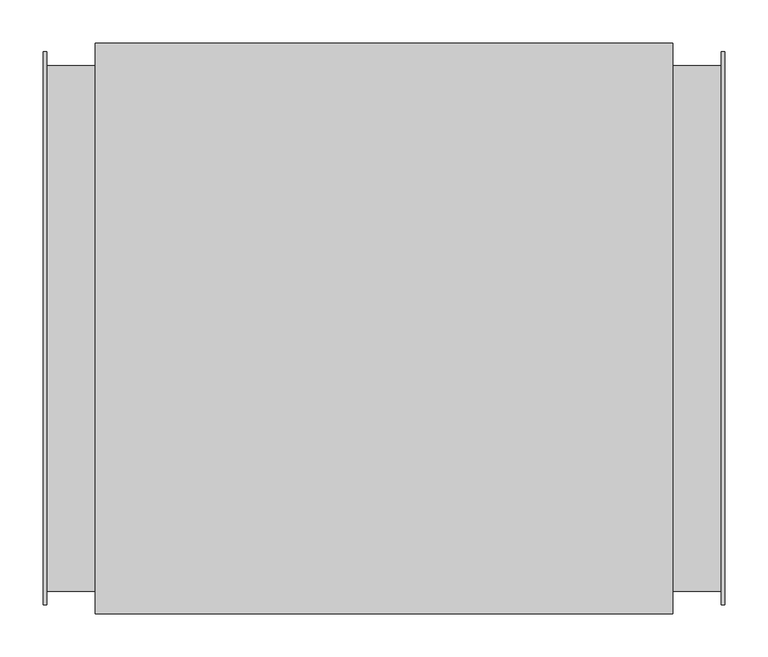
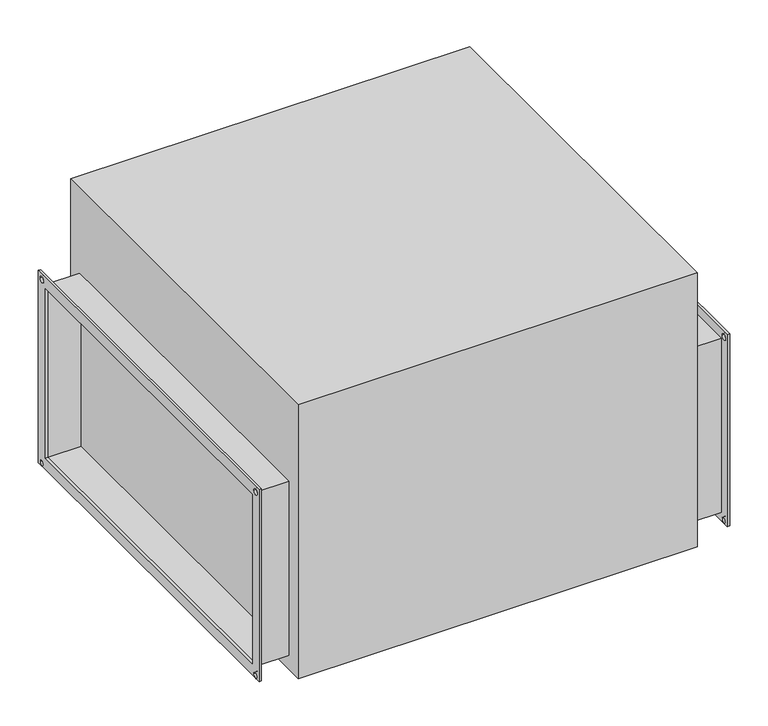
"""IFC4 building model written with IfcOpenShell, lengths in millimetres: proxy geometry."""

import ifcopenshell
import ifcopenshell.guid

model = None  # the IFC model being written
_history = None  # IfcOwnerHistory: only IFC2X3 demands one
_inside = {}  # id of a spatial element -> (the spatial element, [elements in it])
_under = {}  # id of a project, library or spatial element -> (it, [spatial elements below it])
_declared = {}  # id of a project -> (the project, [libraries it declares])
_typed = {}  # id of a type object -> (the type object, [elements of that type])
_made_of = {}  # id of a material, layer set ... -> (it, [elements and type objects made of it])


def new_model(schema):
    """Start an empty IFC model of exactly this schema.

    Asked for "IFC4X3", IfcOpenShell would pick the latest addendum, in which some entities
    have other attributes; the version numbers below select the first issue.
    IFC2X3 requires an IfcOwnerHistory on every rooted entity: one is made here for all.
    """
    global model, _history
    if schema == "IFC4X3":
        model = ifcopenshell.file(schema_version=(4, 3, 0, 0))
    else:
        model = ifcopenshell.file(schema=schema)
    _inside.clear()
    _under.clear()
    _declared.clear()
    _typed.clear()
    _made_of.clear()
    _history = None
    if model.schema == "IFC2X3":
        org = make("IfcOrganization", Name="unknown")
        user = make(
            "IfcPersonAndOrganization",
            ThePerson=make("IfcPerson", FamilyName="unknown"),
            TheOrganization=org,
        )
        app = make(
            "IfcApplication",
            ApplicationDeveloper=org,
            Version="unknown",
            ApplicationFullName="unknown",
            ApplicationIdentifier="unknown",
        )
        _history = make(
            "IfcOwnerHistory",
            OwningUser=user,
            OwningApplication=app,
            ChangeAction="ADDED",
            CreationDate=0,
        )
    return model


def make(cls, **values):
    """One entity of the class cls with the attributes given. An attribute that is None is left unset."""
    return model.create_entity(
        cls, **{name: value for name, value in values.items() if value is not None}
    )


def rooted(cls, **values):
    """An entity with a GlobalId (a new one), such as an element, a storey or a relation."""
    return make(cls, GlobalId=ifcopenshell.guid.new(), OwnerHistory=_history, **values)


def si_unit(unit_type, name, prefix=None):
    """IfcSIUnit, for example si_unit("LENGTHUNIT", "METRE", prefix="MILLI")."""
    return make("IfcSIUnit", UnitType=unit_type, Prefix=prefix, Name=name)


def assignment(units):
    """IfcUnitAssignment: the units of a project."""
    return None if units is None else make("IfcUnitAssignment", Units=units)


def point(xyz):
    """IfcCartesianPoint."""
    return None if xyz is None else make("IfcCartesianPoint", Coordinates=xyz)


def direction(xyz):
    """IfcDirection."""
    return None if xyz is None else make("IfcDirection", DirectionRatios=xyz)


def frame(location, z_axis=None, x_axis=None):
    """IfcAxis2Placement3D, a coordinate frame: its origin and axes. An axis left out is left unset."""
    return make(
        "IfcAxis2Placement3D",
        Location=point(location),
        Axis=direction(z_axis),
        RefDirection=direction(x_axis),
    )


def origin():
    """The frame at (0, 0, 0) with its axes left unset."""
    return frame((0.0, 0.0, 0.0))


def place(relative_to, where):
    """IfcLocalPlacement: puts the frame where relative to a parent placement (None: the world)."""
    return make(
        "IfcLocalPlacement", PlacementRelTo=relative_to, RelativePlacement=where
    )


def context(
    kind, dimensions, precision=None, world=None, true_north=None, identifier=None
):
    """IfcGeometricRepresentationContext, for example the 3D "Model" context."""
    return make(
        "IfcGeometricRepresentationContext",
        ContextIdentifier=identifier,
        ContextType=kind,
        CoordinateSpaceDimension=dimensions,
        Precision=precision,
        WorldCoordinateSystem=world,
        TrueNorth=true_north,
    )


def project(units=None, contexts=None):
    """IfcProject with its units and contexts."""
    return rooted(
        "IfcProject",
        Name="project",
        RepresentationContexts=contexts,
        UnitsInContext=assignment(units),
    )


def spatial(cls, under=None, at=None, **own):
    """A site, building, storey or space (cls), placed at a placement, below another one or the project."""
    s = rooted(cls, ObjectPlacement=at, **own)
    if under is not None:
        _under.setdefault(under.id(), (under, []))[1].append(s)
    return s


def polyline(points):
    """IfcPolyline through the points."""
    return make("IfcPolyline", Points=[point(p) for p in points])


def circle_curve(where, radius):
    """IfcCircle in the frame where."""
    return make("IfcCircle", Position=where, Radius=radius)


def outline(outer, holes=None, kind="AREA"):
    """IfcArbitraryClosedProfileDef: a profile drawn as a closed curve; with holes, ...WithVoids."""
    if holes is None:
        return make("IfcArbitraryClosedProfileDef", ProfileType=kind, OuterCurve=outer)
    return make(
        "IfcArbitraryProfileDefWithVoids",
        ProfileType=kind,
        OuterCurve=outer,
        InnerCurves=holes,
    )


def extrude(swept, where, along, depth):
    """IfcExtrudedAreaSolid: the profile swept, set in the frame where, extruded along a direction by depth."""
    return make(
        "IfcExtrudedAreaSolid",
        SweptArea=swept,
        Position=where,
        ExtrudedDirection=direction(along),
        Depth=depth,
    )


def shape(context_of_items, identifier, shape_type, items):
    """IfcShapeRepresentation: the items that make up one representation, for example the "Body"."""
    return make(
        "IfcShapeRepresentation",
        ContextOfItems=context_of_items,
        RepresentationIdentifier=identifier,
        RepresentationType=shape_type,
        Items=items,
    )


def source(mapping_origin, context_of_items, identifier, shape_type, items):
    """IfcRepresentationMap: a shape defined once, which mapped items show again and again."""
    return make(
        "IfcRepresentationMap",
        MappingOrigin=mapping_origin,
        MappedRepresentation=shape(context_of_items, identifier, shape_type, items),
    )


def transform(
    local_origin,
    x_axis=None,
    y_axis=None,
    z_axis=None,
    scale=None,
    scale2=None,
    scale3=None,
    uniform=True,
):
    """IfcCartesianTransformationOperator3D, or its non-uniform kind. x_axis, y_axis, z_axis: its Axis1, 2, 3."""
    if uniform:
        return make(
            "IfcCartesianTransformationOperator3D",
            Axis1=direction(x_axis),
            Axis2=direction(y_axis),
            LocalOrigin=point(local_origin),
            Scale=scale,
            Axis3=direction(z_axis),
        )
    return make(
        "IfcCartesianTransformationOperator3DnonUniform",
        Axis1=direction(x_axis),
        Axis2=direction(y_axis),
        LocalOrigin=point(local_origin),
        Scale=scale,
        Axis3=direction(z_axis),
        Scale2=scale2,
        Scale3=scale3,
    )


def mapped(mapping_source, mapping_target):
    """IfcMappedItem: shows the shape of a source again, moved by a transform."""
    return make(
        "IfcMappedItem", MappingSource=mapping_source, MappingTarget=mapping_target
    )


def made_of(thing, what):
    """Note that an element or type object is made of a material, layer set ...; save() writes the relation."""
    if what is not None:
        _made_of.setdefault(what.id(), (what, []))[1].append(thing)
    return thing


def element(
    cls,
    number,
    at=None,
    inside=None,
    cuts=None,
    type_object=None,
    material=None,
    context=None,
    identifier="Body",
    shape_type=None,
    held_by="IfcProductDefinitionShape",
    body=None,
    shapes=None,
    **own,
):
    """One element of the class cls, such as IfcWall. Its Tag is "e" and its number.

    at: its placement. inside: the storey or other place that contains it. cuts: it is an
    opening in that element (IfcRelVoidsElement). A single representation is given by context,
    identifier, shape_type and body (its items); several are given by shapes. held_by: the class
    of the entity that holds the representations. save() writes the other relations.
    """
    e = rooted(cls, Tag="e%d" % number, ObjectPlacement=at, **own)
    if body is not None:
        shapes = [shape(context, identifier, shape_type, body)]
    if shapes is not None:
        e.Representation = make(held_by, Representations=shapes)
    if inside is not None:
        _inside.setdefault(inside.id(), (inside, []))[1].append(e)
    if cuts is not None:
        rooted(
            "IfcRelVoidsElement", RelatingBuildingElement=cuts, RelatedOpeningElement=e
        )
    if type_object is not None:
        _typed.setdefault(type_object.id(), (type_object, []))[1].append(e)
    return made_of(e, material)


def aggregate(whole, parts):
    """IfcRelAggregates: a whole, such as a stair, and the parts it consists of."""
    return rooted("IfcRelAggregates", RelatingObject=whole, RelatedObjects=parts)


def save(model, path):
    """Write the relations noted so far, then the file.

    IfcRelAggregates (storeys below a building ...), IfcRelContainedInSpatialStructure (elements
    in a storey), IfcRelDefinesByType, IfcRelAssociatesMaterial and IfcRelDeclares: one each for
    every whole, place, type object, material and project.
    """
    for whole, parts in _under.values():
        aggregate(whole, parts)
    for where, things in _inside.values():
        rooted(
            "IfcRelContainedInSpatialStructure",
            RelatedElements=things,
            RelatingStructure=where,
        )
    for kind, things in _typed.values():
        rooted("IfcRelDefinesByType", RelatedObjects=things, RelatingType=kind)
    for what, things in _made_of.values():
        rooted("IfcRelAssociatesMaterial", RelatedObjects=things, RelatingMaterial=what)
    for by, libraries in _declared.values():
        rooted("IfcRelDeclares", RelatingContext=by, RelatedDefinitions=libraries)
    model.write(path)


def plane_surface(at):
    """IfcPlane: the flat surface through the origin of the frame at, square to its z axis."""
    return make("IfcPlane", Position=at)


def revolved_surface(curve, axis_point, axis_direction):
    """IfcSurfaceOfRevolution: the curve turned about the line through axis_point along axis_direction."""
    return make(
        "IfcSurfaceOfRevolution",
        SweptCurve=make("IfcArbitraryOpenProfileDef", ProfileType="CURVE", Curve=curve),
        AxisPosition=make("IfcAxis1Placement", Location=point(axis_point), Axis=direction(axis_direction)),
    )


def advanced_brep(points, edges, surfaces, faces):
    """IfcAdvancedBrep: a solid bounded by faces that lie on surfaces and meet in shared edges.

    An edge is (start, end): straight between two places in points (the first is 0);
    or (start, end, curve); or (start, end, curve, False) where it runs against its curve.
    A face is (place in surfaces, loops), or (place, loops, False) where it looks against
    its surface's normal. A loop lists edges by number (the first is 1), with a minus sign
    where the edge is run from its end to its start. The first loop is the outer one.
    """
    corners = [point(p) for p in points]
    vertices = [make("IfcVertexPoint", VertexGeometry=c) for c in corners]
    made = []
    for start, end, *more in edges:
        made.append(
            make(
                "IfcEdgeCurve",
                EdgeStart=vertices[start],
                EdgeEnd=vertices[end],
                EdgeGeometry=more[0] if more else make("IfcPolyline", Points=[corners[start], corners[end]]),
                SameSense=more[1] if len(more) > 1 else True,
            )
        )
    hull = []
    for where, loops, *sense in faces:
        bounds = []
        for j, loop in enumerate(loops):
            ring = [make("IfcOrientedEdge", EdgeElement=made[abs(k) - 1], Orientation=k > 0) for k in loop]
            bounds.append(
                make(
                    "IfcFaceOuterBound" if j == 0 else "IfcFaceBound",
                    Bound=make("IfcEdgeLoop", EdgeList=ring),
                    Orientation=True,
                )
            )
        hull.append(make("IfcAdvancedFace", Bounds=bounds, FaceSurface=surfaces[where], SameSense=sense[0] if sense else True))
    return make("IfcAdvancedBrep", Outer=make("IfcClosedShell", CfsFaces=hull))


def mechanical_equipment_2a61b2a6(model_context):
    return source(origin(), model_context, "Body", "SolidModel", [
        advanced_brep(
        [(390.0, 320.0, 170.0), (390.0, 320.0, -170.0), (390.0, 310.0, -170.0), (390.0, 315.0, -165.0), (390.0, 305.0, -165.0), (390.0, -310.0, -170.0), (390.0, -305.0, -165.0), (390.0, -315.0, -165.0), (390.0, -320.0, -170.0), (390.0, -320.0, 170.0), (390.0, 300.0, 150.0), (390.0, -300.0, 150.0), (390.0, -300.0, -150.0), (390.0, 300.0, -150.0), (390.0, 305.0, 160.0), (390.0, 315.0, 160.0), (390.0, -315.0, 160.0), (390.0, -305.0, 160.0), (394.0, 320.0, 170.0), (394.0, -320.0, 170.0), (394.0, -320.0, -170.0), (394.0, -310.0, -170.0), (394.0, -315.0, -165.0), (394.0, -305.0, -165.0), (394.0, 310.0, -170.0), (394.0, 305.0, -165.0), (394.0, 315.0, -165.0), (394.0, 320.0, -170.0), (394.0, 300.0, 150.0), (394.0, 300.0, -150.0), (394.0, -300.0, -150.0), (394.0, -300.0, 150.0), (394.0, 315.0, 160.0), (394.0, 305.0, 160.0), (394.0, -305.0, 160.0), (394.0, -315.0, 160.0)],
        [
            (0, 1),
            (1, 2),
            (2, 3, circle_curve(frame((390.0, 310.0, -165.0), z_axis=(1.0, 0.0, 0.0), x_axis=(0.0, 1.0, 0.0)), 5.0)),
            (3, 4, circle_curve(frame((390.0, 310.0, -165.0), z_axis=(1.0, 0.0, 0.0), x_axis=(0.0, 1.0, 0.0)), 5.0)),
            (4, 2, circle_curve(frame((390.0, 310.0, -165.0), z_axis=(1.0, 0.0, 0.0), x_axis=(0.0, 1.0, 0.0)), 5.0)),
            (2, 5),
            (5, 6, circle_curve(frame((390.0, -310.0, -165.0), z_axis=(1.0, 0.0, 0.0), x_axis=(0.0, 1.0, 0.0)), 5.0)),
            (6, 7, circle_curve(frame((390.0, -310.0, -165.0), z_axis=(1.0, 0.0, 0.0), x_axis=(0.0, 1.0, 0.0)), 5.0)),
            (7, 5, circle_curve(frame((390.0, -310.0, -165.0), z_axis=(1.0, 0.0, 0.0), x_axis=(0.0, 1.0, 0.0)), 5.0)),
            (5, 8),
            (8, 9),
            (9, 0),
            (10, 11),
            (11, 12),
            (12, 13),
            (13, 10),
            (14, 15, circle_curve(frame((390.0, 310.0, 160.0), z_axis=(1.0, 0.0, 0.0), x_axis=(0.0, 1.0, 0.0)), 5.0)),
            (15, 14, circle_curve(frame((390.0, 310.0, 160.0), z_axis=(1.0, 0.0, 0.0), x_axis=(0.0, 1.0, 0.0)), 5.0)),
            (16, 17, circle_curve(frame((390.0, -310.0, 160.0), z_axis=(1.0, 0.0, 0.0), x_axis=(0.0, 1.0, 0.0)), 5.0)),
            (17, 16, circle_curve(frame((390.0, -310.0, 160.0), z_axis=(1.0, 0.0, 0.0), x_axis=(0.0, 1.0, 0.0)), 5.0)),
            (18, 19),
            (19, 20),
            (20, 21),
            (21, 22, circle_curve(frame((394.0, -310.0, -165.0), z_axis=(-1.0, 0.0, 0.0), x_axis=(0.0, 1.0, 0.0)), 5.0)),
            (22, 23, circle_curve(frame((394.0, -310.0, -165.0), z_axis=(-1.0, 0.0, 0.0), x_axis=(0.0, 1.0, 0.0)), 5.0)),
            (23, 21, circle_curve(frame((394.0, -310.0, -165.0), z_axis=(-1.0, 0.0, 0.0), x_axis=(0.0, 1.0, 0.0)), 5.0)),
            (21, 24),
            (24, 25, circle_curve(frame((394.0, 310.0, -165.0), z_axis=(-1.0, 0.0, 0.0), x_axis=(0.0, 1.0, 0.0)), 5.0)),
            (25, 26, circle_curve(frame((394.0, 310.0, -165.0), z_axis=(-1.0, 0.0, 0.0), x_axis=(0.0, 1.0, 0.0)), 5.0)),
            (26, 24, circle_curve(frame((394.0, 310.0, -165.0), z_axis=(-1.0, 0.0, 0.0), x_axis=(0.0, 1.0, 0.0)), 5.0)),
            (24, 27),
            (27, 18),
            (28, 29),
            (29, 30),
            (30, 31),
            (31, 28),
            (32, 33, circle_curve(frame((394.0, 310.0, 160.0), z_axis=(-1.0, 0.0, 0.0), x_axis=(0.0, 1.0, 0.0)), 5.0)),
            (33, 32, circle_curve(frame((394.0, 310.0, 160.0), z_axis=(-1.0, 0.0, 0.0), x_axis=(0.0, 1.0, 0.0)), 5.0)),
            (34, 35, circle_curve(frame((394.0, -310.0, 160.0), z_axis=(-1.0, 0.0, 0.0), x_axis=(0.0, 1.0, 0.0)), 5.0)),
            (35, 34, circle_curve(frame((394.0, -310.0, 160.0), z_axis=(-1.0, 0.0, 0.0), x_axis=(0.0, 1.0, 0.0)), 5.0)),
            (13, 29),
            (28, 10),
            (12, 30),
            (11, 31),
            (9, 19),
            (18, 0),
            (8, 20),
            (1, 27),
            (14, 33),
            (32, 15),
            (16, 35),
            (34, 17),
            (7, 22),
            (23, 6),
            (4, 25),
            (26, 3),
        ],
        [
            plane_surface(frame((390.0, 300.0, -150.0), z_axis=(-1.0, 0.0, 0.0), x_axis=(0.0, 0.0, 1.0))),
            plane_surface(frame((394.0, 300.0, -150.0), z_axis=(1.0, 0.0, 0.0), x_axis=(0.0, 0.0, -1.0))),
            plane_surface(frame((394.0, 300.0, 150.0), z_axis=(0.0, -1.0, 0.0), x_axis=(-1.0, 0.0, 0.0))),
            plane_surface(frame((394.0, 300.0, -150.0), z_axis=(0.0, 0.0, 1.0), x_axis=(-1.0, 0.0, 0.0))),
            plane_surface(frame((394.0, -300.0, -150.0), z_axis=(0.0, 1.0, 0.0), x_axis=(-1.0, 0.0, 0.0))),
            plane_surface(frame((394.0, -300.0, 150.0), z_axis=(0.0, 0.0, -1.0), x_axis=(-1.0, 0.0, 0.0))),
            plane_surface(frame((394.0, 320.0, 170.0), z_axis=(0.0, 0.0, 1.0), x_axis=(-1.0, 0.0, 0.0))),
            plane_surface(frame((394.0, -320.0, 170.0), z_axis=(0.0, -1.0, 0.0), x_axis=(-1.0, 0.0, 0.0))),
            plane_surface(frame((394.0, -320.0, -170.0), z_axis=(0.0, 0.0, -1.0), x_axis=(-1.0, 0.0, 0.0))),
            plane_surface(frame((394.0, 320.0, -170.0), z_axis=(0.0, 1.0, 0.0), x_axis=(-1.0, 0.0, 0.0))),
            revolved_surface(polyline([(394.0, 315.0, 160.0), (390.0, 315.0, 160.0)]), (-394.0, 310.0, 160.0), (1.0, 0.0, 0.0)),
            revolved_surface(polyline([(394.0, -305.0, 160.0), (390.0, -305.0, 160.0)]), (0.0, -310.0, 160.0), (1.0, 0.0, 0.0)),
            revolved_surface(polyline([(394.0, -305.0, -165.0), (390.0, -305.0, -165.0)]), (0.0, -310.0, -165.0), (1.0, 0.0, 0.0)),
            revolved_surface(polyline([(394.0, 315.0, -165.0), (390.0, 315.0, -165.0)]), (0.0, 310.0, -165.0), (1.0, 0.0, 0.0)),
        ],
        [
            (0, [[1, 2, 3, 4, 5, 6, 7, 8, 9, 10, 11, 12], [13, 14, 15, 16], [17, 18], [19, 20]]),
            (1, [[21, 22, 23, 24, 25, 26, 27, 28, 29, 30, 31, 32], [33, 34, 35, 36], [37, 38], [39, 40]]),
            (2, [[-16, 41, -33, 42]]),
            (3, [[-15, 43, -34, -41]]),
            (4, [[-14, 44, -35, -43]]),
            (5, [[-13, -42, -36, -44]]),
            (6, [[-12, 45, -21, 46]]),
            (7, [[-11, 47, -22, -45]]),
            (8, [[-47, -10, -6, -2, 48, -31, -27, -23]]),
            (9, [[-1, -46, -32, -48]]),
            (10, [[49, -37, 50, -17]]),
            (10, [[-49, -18, -50, -38]]),
            (11, [[51, -39, 52, -19]]),
            (11, [[-51, -20, -52, -40]]),
            (12, [[53, -24, -26, 54, -7, -9]]),
            (12, [[-53, -8, -54, -25]]),
            (13, [[55, -28, -30, 56, -3, -5]]),
            (13, [[-55, -4, -56, -29]]),
        ],
    ),
        advanced_brep(
        [(-394.0, -320.0, 170.0), (-394.0, 320.0, 170.0), (-394.0, 320.0, -170.0), (-394.0, 310.0, -170.0), (-394.0, 315.0, -165.0), (-394.0, 305.0, -165.0), (-394.0, -310.0, -170.0), (-394.0, -305.0, -165.0), (-394.0, -315.0, -165.0), (-394.0, -320.0, -170.0), (-394.0, -300.0, 150.0), (-394.0, -300.0, -150.0), (-394.0, 300.0, -150.0), (-394.0, 300.0, 150.0), (-394.0, 305.0, 160.0), (-394.0, 315.0, 160.0), (-394.0, -315.0, 160.0), (-394.0, -305.0, 160.0), (-390.0, -320.0, 170.0), (-390.0, -320.0, -170.0), (-390.0, -310.0, -170.0), (-390.0, -315.0, -165.0), (-390.0, -305.0, -165.0), (-390.0, 310.0, -170.0), (-390.0, 305.0, -165.0), (-390.0, 315.0, -165.0), (-390.0, 320.0, -170.0), (-390.0, 320.0, 170.0), (-390.0, -300.0, 150.0), (-390.0, 300.0, 150.0), (-390.0, 300.0, -150.0), (-390.0, -300.0, -150.0), (-390.0, 315.0, 160.0), (-390.0, 305.0, 160.0), (-390.0, -305.0, 160.0), (-390.0, -315.0, 160.0)],
        [
            (0, 1),
            (1, 2),
            (2, 3),
            (3, 4, circle_curve(frame((-394.0, 310.0, -165.0), z_axis=(1.0, 0.0, 0.0), x_axis=(0.0, 1.0, 0.0)), 5.0)),
            (4, 5, circle_curve(frame((-394.0, 310.0, -165.0), z_axis=(1.0, 0.0, 0.0), x_axis=(0.0, 1.0, 0.0)), 5.0)),
            (5, 3, circle_curve(frame((-394.0, 310.0, -165.0), z_axis=(1.0, 0.0, 0.0), x_axis=(0.0, 1.0, 0.0)), 5.0)),
            (3, 6),
            (6, 7, circle_curve(frame((-394.0, -310.0, -165.0), z_axis=(1.0, 0.0, 0.0), x_axis=(0.0, 1.0, 0.0)), 5.0)),
            (7, 8, circle_curve(frame((-394.0, -310.0, -165.0), z_axis=(1.0, 0.0, 0.0), x_axis=(0.0, 1.0, 0.0)), 5.0)),
            (8, 6, circle_curve(frame((-394.0, -310.0, -165.0), z_axis=(1.0, 0.0, 0.0), x_axis=(0.0, 1.0, 0.0)), 5.0)),
            (6, 9),
            (9, 0),
            (10, 11),
            (11, 12),
            (12, 13),
            (13, 10),
            (14, 15, circle_curve(frame((-394.0, 310.0, 160.0), z_axis=(1.0, 0.0, 0.0), x_axis=(0.0, 1.0, 0.0)), 5.0)),
            (15, 14, circle_curve(frame((-394.0, 310.0, 160.0), z_axis=(1.0, 0.0, 0.0), x_axis=(0.0, 1.0, 0.0)), 5.0)),
            (16, 17, circle_curve(frame((-394.0, -310.0, 160.0), z_axis=(1.0, 0.0, 0.0), x_axis=(0.0, 1.0, 0.0)), 5.0)),
            (17, 16, circle_curve(frame((-394.0, -310.0, 160.0), z_axis=(1.0, 0.0, 0.0), x_axis=(0.0, 1.0, 0.0)), 5.0)),
            (18, 19),
            (19, 20),
            (20, 21, circle_curve(frame((-390.0, -310.0, -165.0), z_axis=(-1.0, 0.0, 0.0), x_axis=(0.0, 1.0, 0.0)), 5.0)),
            (21, 22, circle_curve(frame((-390.0, -310.0, -165.0), z_axis=(-1.0, 0.0, 0.0), x_axis=(0.0, 1.0, 0.0)), 5.0)),
            (22, 20, circle_curve(frame((-390.0, -310.0, -165.0), z_axis=(-1.0, 0.0, 0.0), x_axis=(0.0, 1.0, 0.0)), 5.0)),
            (20, 23),
            (23, 24, circle_curve(frame((-390.0, 310.0, -165.0), z_axis=(-1.0, 0.0, 0.0), x_axis=(0.0, 1.0, 0.0)), 5.0)),
            (24, 25, circle_curve(frame((-390.0, 310.0, -165.0), z_axis=(-1.0, 0.0, 0.0), x_axis=(0.0, 1.0, 0.0)), 5.0)),
            (25, 23, circle_curve(frame((-390.0, 310.0, -165.0), z_axis=(-1.0, 0.0, 0.0), x_axis=(0.0, 1.0, 0.0)), 5.0)),
            (23, 26),
            (26, 27),
            (27, 18),
            (28, 29),
            (29, 30),
            (30, 31),
            (31, 28),
            (32, 33, circle_curve(frame((-390.0, 310.0, 160.0), z_axis=(-1.0, 0.0, 0.0), x_axis=(0.0, 1.0, 0.0)), 5.0)),
            (33, 32, circle_curve(frame((-390.0, 310.0, 160.0), z_axis=(-1.0, 0.0, 0.0), x_axis=(0.0, 1.0, 0.0)), 5.0)),
            (34, 35, circle_curve(frame((-390.0, -310.0, 160.0), z_axis=(-1.0, 0.0, 0.0), x_axis=(0.0, 1.0, 0.0)), 5.0)),
            (35, 34, circle_curve(frame((-390.0, -310.0, 160.0), z_axis=(-1.0, 0.0, 0.0), x_axis=(0.0, 1.0, 0.0)), 5.0)),
            (9, 19),
            (18, 0),
            (2, 26),
            (1, 27),
            (13, 29),
            (28, 10),
            (12, 30),
            (11, 31),
            (14, 33),
            (32, 15),
            (16, 35),
            (34, 17),
            (8, 21),
            (22, 7),
            (5, 24),
            (25, 4),
        ],
        [
            plane_surface(frame((-394.0, -320.0, 170.0), z_axis=(-1.0, 0.0, 0.0), x_axis=(0.0, 0.0, 1.0))),
            plane_surface(frame((-390.0, -320.0, 170.0), z_axis=(1.0, 0.0, 0.0), x_axis=(0.0, 0.0, -1.0))),
            plane_surface(frame((-390.0, -320.0, 170.0), z_axis=(0.0, -1.0, 0.0), x_axis=(-1.0, 0.0, 0.0))),
            plane_surface(frame((-390.0, -320.0, -170.0), z_axis=(0.0, 0.0, -1.0), x_axis=(-1.0, 0.0, 0.0))),
            plane_surface(frame((-390.0, 320.0, -170.0), z_axis=(0.0, 1.0, 0.0), x_axis=(-1.0, 0.0, 0.0))),
            plane_surface(frame((-390.0, 320.0, 170.0), z_axis=(0.0, 0.0, 1.0), x_axis=(-1.0, 0.0, 0.0))),
            plane_surface(frame((-390.0, -300.0, 150.0), z_axis=(0.0, 0.0, -1.0), x_axis=(-1.0, 0.0, 0.0))),
            plane_surface(frame((-390.0, 300.0, 150.0), z_axis=(0.0, -1.0, 0.0), x_axis=(-1.0, 0.0, 0.0))),
            plane_surface(frame((-390.0, 300.0, -150.0), z_axis=(0.0, 0.0, 1.0), x_axis=(-1.0, 0.0, 0.0))),
            plane_surface(frame((-390.0, -300.0, -150.0), z_axis=(0.0, 1.0, 0.0), x_axis=(-1.0, 0.0, 0.0))),
            revolved_surface(polyline([(-390.0, 315.0, 160.0), (-394.0, 315.0, 160.0)]), (-394.0, 310.0, 160.0), (1.0, 0.0, 0.0)),
            revolved_surface(polyline([(-390.0, -305.0, 160.0), (-394.0, -305.0, 160.0)]), (0.0, -310.0, 160.0), (1.0, 0.0, 0.0)),
            revolved_surface(polyline([(-390.0, -305.0, -165.0), (-394.0, -305.0, -165.0)]), (0.0, -310.0, -165.0), (1.0, 0.0, 0.0)),
            revolved_surface(polyline([(-390.0, 315.0, -165.0), (-394.0, 315.0, -165.0)]), (0.0, 310.0, -165.0), (1.0, 0.0, 0.0)),
        ],
        [
            (0, [[1, 2, 3, 4, 5, 6, 7, 8, 9, 10, 11, 12], [13, 14, 15, 16], [17, 18], [19, 20]]),
            (1, [[21, 22, 23, 24, 25, 26, 27, 28, 29, 30, 31, 32], [33, 34, 35, 36], [37, 38], [39, 40]]),
            (2, [[-12, 41, -21, 42]]),
            (3, [[-41, -11, -7, -3, 43, -30, -26, -22]]),
            (4, [[-2, 44, -31, -43]]),
            (5, [[-1, -42, -32, -44]]),
            (6, [[-16, 45, -33, 46]]),
            (7, [[-15, 47, -34, -45]]),
            (8, [[-14, 48, -35, -47]]),
            (9, [[-13, -46, -36, -48]]),
            (10, [[49, -37, 50, -17]]),
            (10, [[-49, -18, -50, -38]]),
            (11, [[51, -39, 52, -19]]),
            (11, [[-51, -20, -52, -40]]),
            (12, [[53, -23, -25, 54, -8, -10]]),
            (12, [[-53, -9, -54, -24]]),
            (13, [[55, -27, -29, 56, -4, -6]]),
            (13, [[-55, -5, -56, -28]]),
        ],
    ),
        extrude(outline(polyline([(334.0, 330.0), (334.0, -330.0), (-334.0, -330.0), (-334.0, 330.0), (334.0, 330.0)])), frame((0.0, 0.0, -180.0), z_axis=(0.0, 0.0, 1.0), x_axis=(1.0, 0.0, 0.0)), (0.0, 0.0, 1.0), 485.0),
        extrude(outline(polyline([(-304.0, 154.0), (304.0, 154.0), (304.0, -154.0), (-304.0, -154.0), (-304.0, 154.0)]), holes=[polyline([(300.0, 150.0), (-300.0, 150.0), (-300.0, -150.0), (300.0, -150.0), (300.0, 150.0)])]), frame((-390.0, 0.0, 0.0), z_axis=(1.0, 0.0, 0.0), x_axis=(0.0, 1.0, 0.0)), (0.0, 0.0, 1.0), 56.0),
        extrude(outline(polyline([(-304.0, 154.0), (304.0, 154.0), (304.0, -154.0), (-304.0, -154.0), (-304.0, 154.0)]), holes=[polyline([(300.0, 150.0), (-300.0, 150.0), (-300.0, -150.0), (300.0, -150.0), (300.0, 150.0)])]), frame((334.0, 0.0, 0.0), z_axis=(1.0, 0.0, 0.0), x_axis=(0.0, 1.0, 0.0)), (0.0, 0.0, 1.0), 56.0),
    ])


if __name__ == "__main__":
    model = new_model("IFC4")
    model_context = context("Model", 3, world=origin())
    ifc_project = project(units=[si_unit("LENGTHUNIT", "METRE", prefix="MILLI")], contexts=[model_context])
    site = spatial("IfcSite", under=ifc_project)
    building = spatial("IfcBuilding", under=site)
    placement = place(None, origin())
    mechanical_equipment_shape = mechanical_equipment_2a61b2a6(model_context)
    element("IfcBuildingElementProxy", 1, Name="Mechanical Equipment", at=placement, inside=building, context=model_context, shape_type="MappedRepresentation", body=[
        mapped(mechanical_equipment_shape, transform((0.0, 0.0, 0.0), x_axis=(1.0, 0.0, 0.0), y_axis=(0.0, 1.0, 0.0), z_axis=(0.0, 0.0, 1.0))),
    ])
    save(model, "model.ifc")
